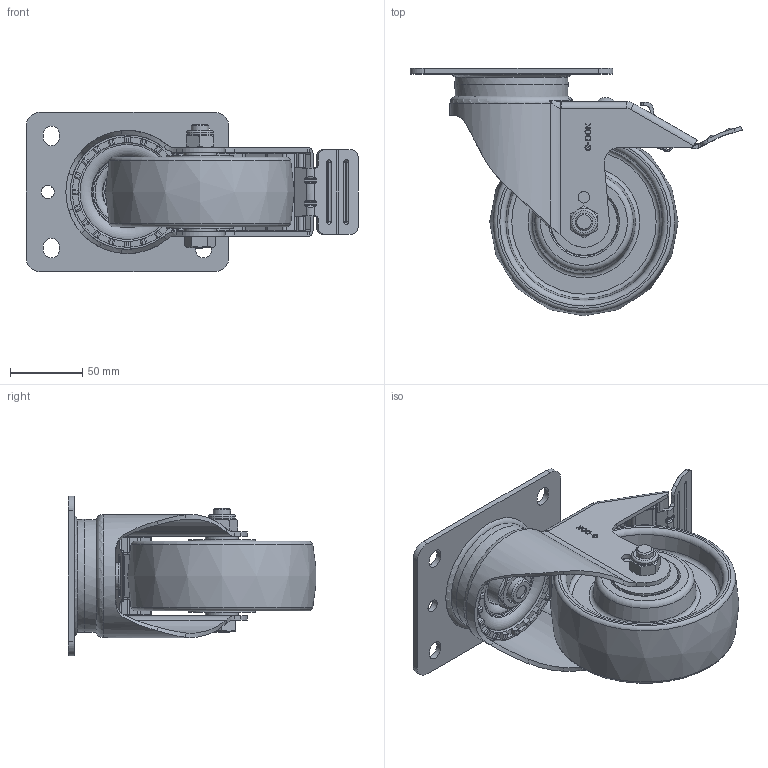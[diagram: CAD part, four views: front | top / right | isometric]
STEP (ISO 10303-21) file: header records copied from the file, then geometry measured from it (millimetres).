
FILE_DESCRIPTION(/* description */ (''),/* implementation_level */ '2;1');
FILE_NAME(/* name */ '\\192.168.10.38\지덕공유\1.기술연구소\2.연구개발 진행중\124.SPH-Series_중하중_2025.02.11\1.도면\2. 3D\홈페이지용\SPH-130-BSF-NYD-PEU.stp',/* time_stamp */ '2026-05-19T07:43:46+09:00',/* author */ ('admin'),/* organization */ ('지덕산업'),/* preprocessor_version */ 'ST-DEVELOPER v18.1',/* originating_system */ 'Autodesk Inventor 2021',/* authorisation */ '');
FILE_SCHEMA (('AUTOMOTIVE_DESIGN { 1 0 10303 214 3 1 1 }'));
Products named in the file (1): SPH-130-BSF-NYD-PEU
Bounding box: 229.04 x 170.74 x 110 mm (x, y, z)
Volume: 702007.8 mm3; surface area: 164577.5 mm2
Topology: 1 solids, 2 shells, 1606 faces, 4381 edges, 2846 vertices
Faces by surface type: plane 710, bspline 528, cylinder 272, cone 49, torus 46, sphere 1
Full cylindrical faces by diameter (mm): 6 x1, 8 x5, 9 x3, 10 x1, 12 x2, 18 x2, 18.5 x1, 31 x1, 31.177 x1, 46.001 x2
Entity records: 55828 total; most frequent: CARTESIAN_POINT 18407, ORIENTED_EDGE 8726, DIRECTION 6155, EDGE_CURVE 4365, VERTEX_POINT 2846, LINE 2433, VECTOR 2433, AXIS2_PLACEMENT_3D 1861
